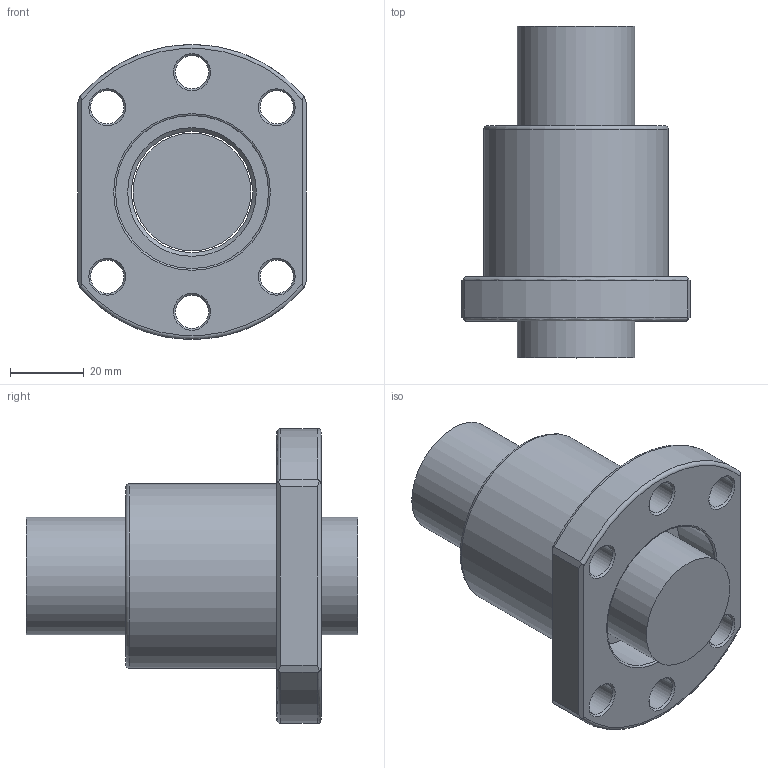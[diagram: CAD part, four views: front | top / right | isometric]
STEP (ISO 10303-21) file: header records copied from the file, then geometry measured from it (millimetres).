
FILE_DESCRIPTION(/* description */ (''),/* implementation_level */ '2;1');
FILE_NAME(/* name */ '3205.prt.step',/* time_stamp */ '2008-12-05T09:30:30+08:00',/* author */ (''),/* organization */ (''),/* preprocessor_version */ 'ST-DEVELOPER v11',/* originating_system */ 'SIEMENS UGS NX 6.0',/* authorisation */ '');
FILE_SCHEMA (('AUTOMOTIVE_DESIGN { 1 0 10303 214 1 1 1 1 }'));
Length unit declared in the file: millimetre
Products named in the file (1): 3205
Bounding box: 62 x 90 x 80 mm (x, y, z)
Volume: 141435.8 mm3; surface area: 34023.6 mm2
Topology: 2 solids, 2 shells, 51 faces, 118 edges, 74 vertices
Faces by surface type: plane 17, cone 14, cylinder 13, torus 7
Full cylindrical faces by diameter (mm): 9 x6, 31.95 x1, 32.9 x1, 41.5 x2, 50 x1
Entity records: 1558 total; most frequent: CARTESIAN_POINT 462, DIRECTION 222, ORIENTED_EDGE 174, AXIS2_PLACEMENT_3D 99, EDGE_LOOP 96, EDGE_CURVE 87, FACE_BOUND 78, VERTEX_POINT 71
